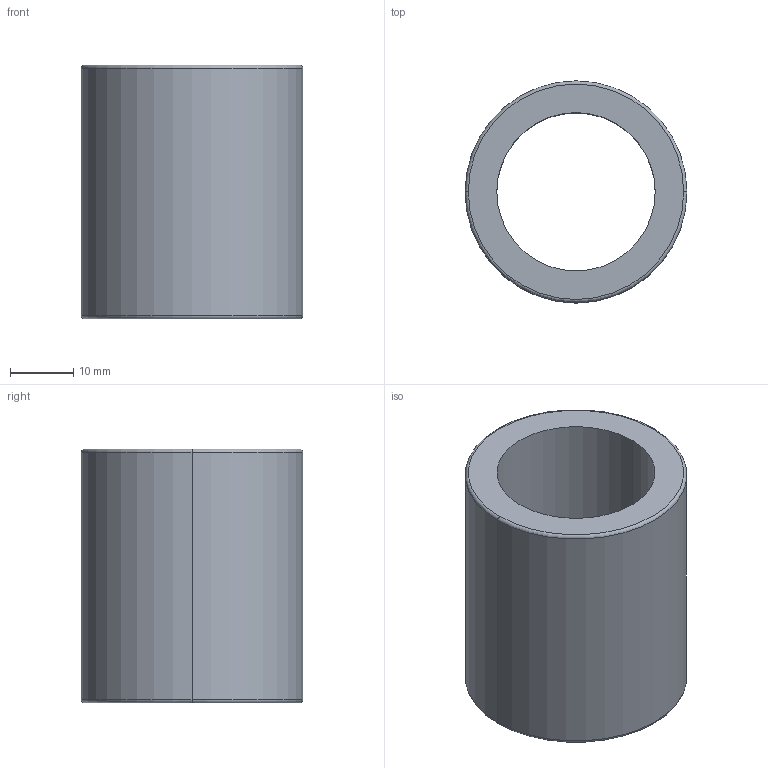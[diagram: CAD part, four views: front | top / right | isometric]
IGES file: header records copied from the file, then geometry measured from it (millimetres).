
Start section: 3D InterOp IGES (Version 21 0 1), Spatial Corp. Copyright (c) 1999-2007.
Global section: file name: CB-25.igs; native system: Spatial Corp.; preprocessor: 3D InterOp GENERIC/IGES 3.0; author: Noname; organization: Noname; date: 20220216.101425; units: millimetre
Bounding box: 35 x 35 x 40 mm (x, y, z)
Surface area: 8434.9 mm2 (no closed solid volume)
Topology: 0 solids, 0 shells, 10 faces, 40 edges, 40 vertices
Faces by surface type: revolution 8, extrusion 2
